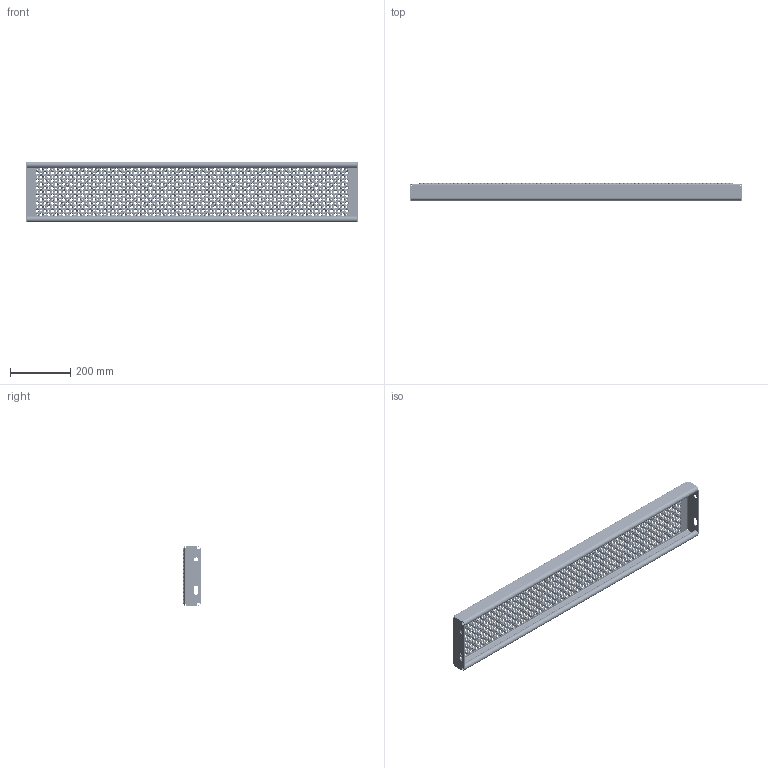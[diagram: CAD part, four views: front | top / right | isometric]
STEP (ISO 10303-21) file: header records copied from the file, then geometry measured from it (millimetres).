
FILE_DESCRIPTION (( 'STEP AP214' ), '1' );
FILE_NAME ('OPTIMO-Tread-Achil-O2-1100x200x57x2-st240-F100110100.STEP', '2021-03-15T09:54:41', ( '' ), ( '' ), 'SwSTEP 2.0', 'SolidWorks 2021', '' );
FILE_SCHEMA (( 'AUTOMOTIVE_DESIGN' ));
Products named in the file (1): OPTIMO-Tread-Achil-O2-1100x200x57x2-st240-F100110100
Bounding box: 1100 x 57 x 200 mm (x, y, z)
Volume: 875004.2 mm3; surface area: 942289.6 mm2
Topology: 1 solids, 1 shells, 12532 faces, 32570 edges, 20040 vertices
Faces by surface type: cone 7470, torus 4980, plane 38, cylinder 36, bspline 8
Entity records: 398824 total; most frequent: DIRECTION 82544, CARTESIAN_POINT 65735, ORIENTED_EDGE 65140, AXIS2_PLACEMENT_3D 37481, EDGE_CURVE 32570, CIRCLE 24956, VERTEX_POINT 20040, EDGE_LOOP 15030
